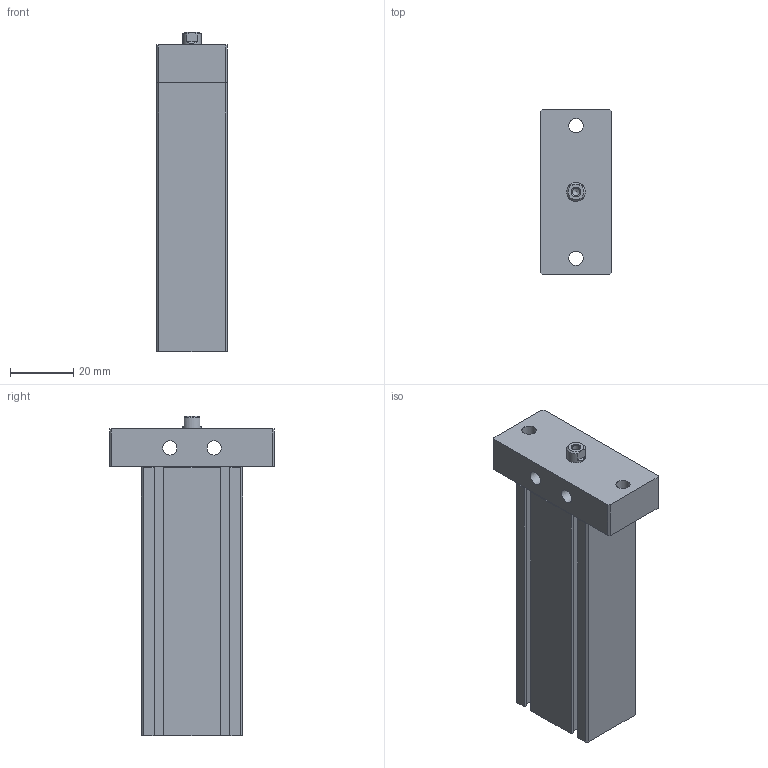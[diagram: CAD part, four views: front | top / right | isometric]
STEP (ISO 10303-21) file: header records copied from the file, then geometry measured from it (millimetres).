
FILE_DESCRIPTION((''),'2;1');
FILE_NAME('J:\3D電子目錄\氣缸\ND\ND\ND-F\ND16x60-F.stp','2008-03-12T13:55:44',('66-2f-008'),(''),'Autodesk Inventor 11','Autodesk Inventor 11','');
FILE_SCHEMA(('AUTOMOTIVE_DESIGN { 1 0 10303 214 1 1 1 1 }'));
Length unit declared in the file: millimetre
Products named in the file (1): ND16-F
Bounding box: 22.4 x 52 x 101 mm (x, y, z)
Volume: 65116.3 mm3; surface area: 19452.8 mm2
Topology: 2 solids, 2 shells, 110 faces, 268 edges, 171 vertices
Faces by surface type: plane 75, bspline 16, cone 10, cylinder 8, torus 1
Full cylindrical faces by diameter (mm): 1.5 x2, 4.5 x2, 6 x1, 10 x1, 18 x1, 19 x1
Entity records: 3158 total; most frequent: CARTESIAN_POINT 731, DIRECTION 466, ORIENTED_EDGE 464, EDGE_CURVE 232, VECTOR 180, LINE 180, VERTEX_POINT 164, EDGE_LOOP 156
